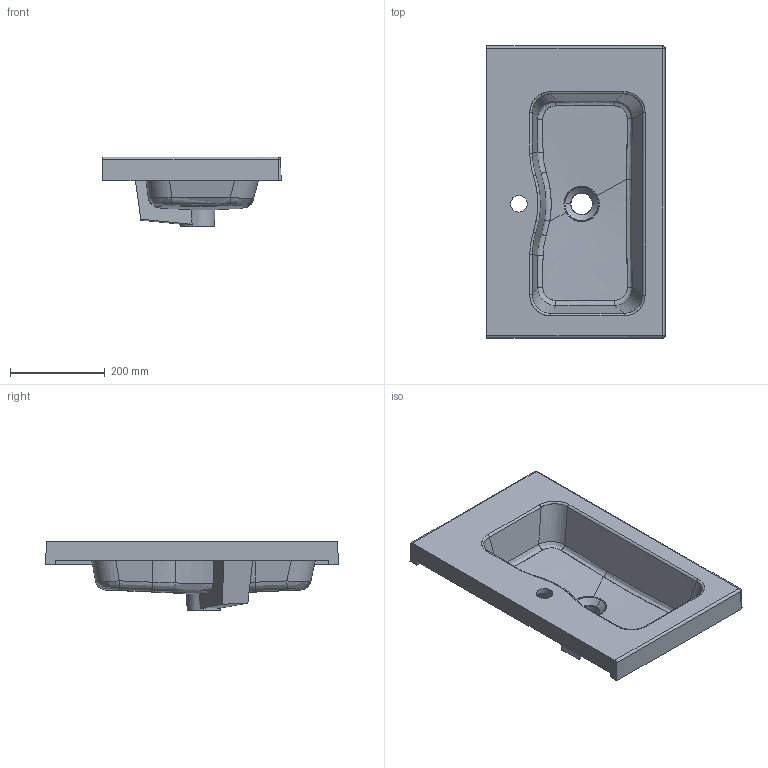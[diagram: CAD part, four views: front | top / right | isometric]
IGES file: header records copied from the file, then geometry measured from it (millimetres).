
Start section: START RECORD GO HERE.
Global section: file name: 3D ART 8505 Tanaro 61.igs; native system: DASSAULT SYSTEMES CATIA V5 R19 - www.3ds.com; preprocessor: CATIA Version 5 Release 19 SP 5 ; author: Luca; organization: DESKTOP-V7SON24; date: 20220801.130614; units: millimetre
Bounding box: 376.31 x 617.62 x 147.5 mm (x, y, z)
Surface area: 753130.2 mm2 (no closed solid volume)
Topology: 0 solids, 0 shells, 110 faces, 540 edges, 540 vertices
Faces by surface type: bspline 86, plane 19, revolution 5
